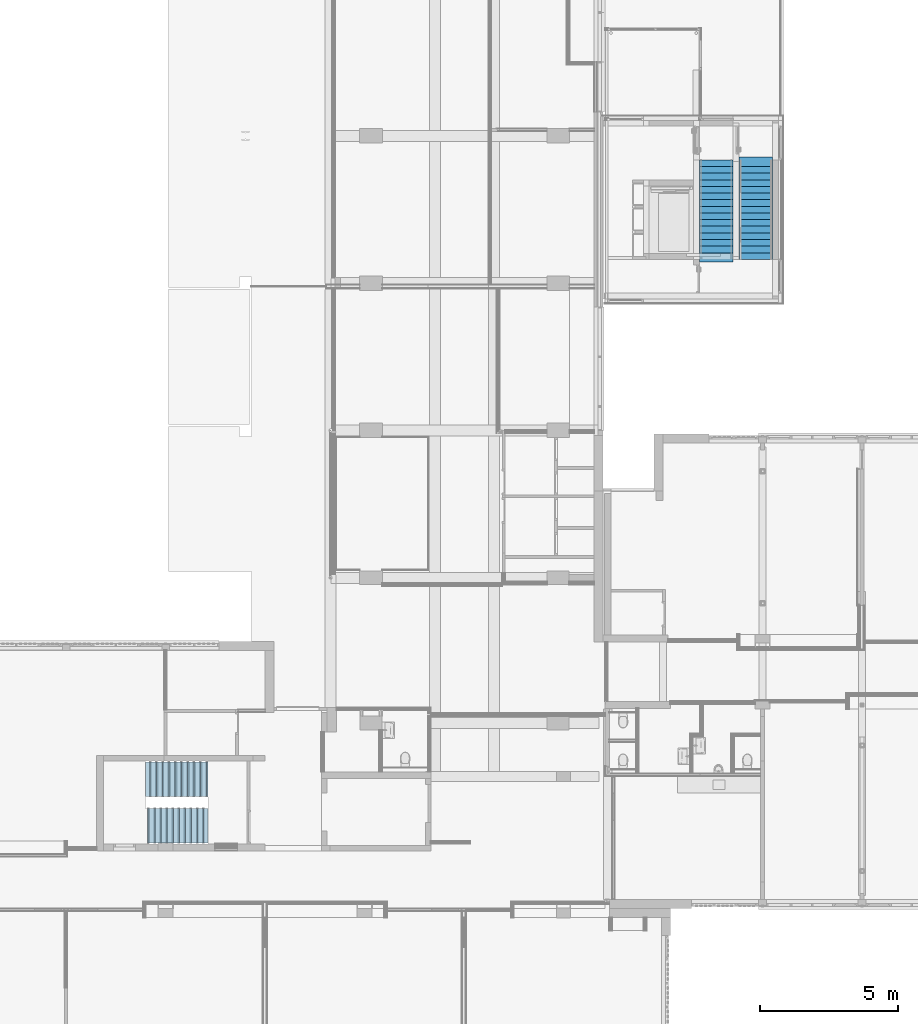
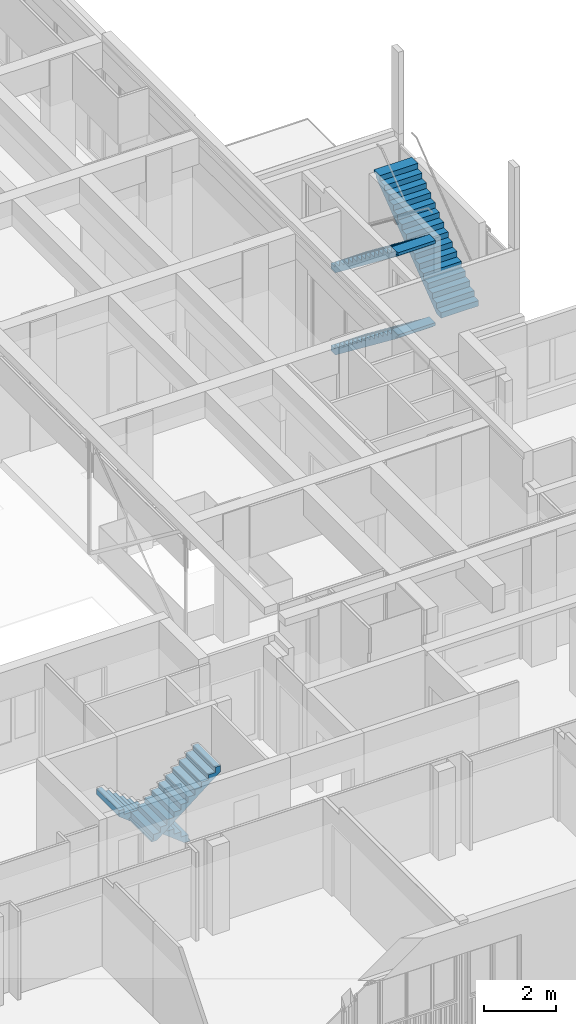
# One storey, part 71 of 117: 5 stair flights, 5 elements without a shape of their own.
"""IFC2X3 building model written with IfcOpenShell, lengths in millimetres."""

from ifc_helpers import new_model, entity, si_unit, converted_unit, derived_unit, money_unit, direction, frame, origin_with_axes, place, context, subcontext, project, spatial, faceted_brep, material, type_object, element, aggregate, save


model = new_model("IFC2X3")

# Units and contexts
model_context = context("Model", 3, precision=0.01, world=origin_with_axes(), true_north=direction((0.0, 1.0)))
body_context = subcontext(model_context, "Body", "Model", "MODEL_VIEW")
ifc_project = project(units=[si_unit("LENGTHUNIT", "METRE", prefix="MILLI"), si_unit("AREAUNIT", "SQUARE_METRE"), si_unit("VOLUMEUNIT", "CUBIC_METRE"), converted_unit("PLANEANGLEUNIT", "DEGREE", entity("IfcPlaneAngleMeasure", 0.0174532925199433), si_unit("PLANEANGLEUNIT", "RADIAN"), dimensions=[0, 0, 0, 0, 0, 0, 0]), money_unit("EUR"), converted_unit("TIMEUNIT", "Year", entity("IfcTimeMeasure", 31557600.0), si_unit("TIMEUNIT", "SECOND"), dimensions=[0, 0, 1, 0, 0, 0, 0]), si_unit("MASSUNIT", "GRAM", prefix="KILO"), si_unit("THERMODYNAMICTEMPERATUREUNIT", "DEGREE_CELSIUS"), si_unit("LUMINOUSINTENSITYUNIT", "LUMEN"), si_unit("ENERGYUNIT", "JOULE", prefix="MEGA"), derived_unit("THERMALCONDUCTANCEUNIT", [(si_unit("POWERUNIT", "WATT"), 1), (si_unit("LENGTHUNIT", "METRE"), -1), (si_unit("THERMODYNAMICTEMPERATUREUNIT", "KELVIN"), -1)]), derived_unit("SPECIFICHEATCAPACITYUNIT", [(si_unit("ENERGYUNIT", "JOULE"), 1), (si_unit("MASSUNIT", "GRAM", prefix="KILO"), -1), (si_unit("THERMODYNAMICTEMPERATUREUNIT", "KELVIN"), -1)]), derived_unit("MASSDENSITYUNIT", [(si_unit("MASSUNIT", "GRAM", prefix="KILO"), 1), (si_unit("VOLUMEUNIT", "CUBIC_METRE"), -1)])], contexts=[model_context])

# Site, building, storey
site_placement = place(None, origin_with_axes())
site = spatial("IfcSite", under=ifc_project, at=site_placement, Name="Site", CompositionType="ELEMENT")
building_placement = place(site_placement, origin_with_axes())
building = spatial("IfcBuilding", under=site, at=building_placement, Name="Naam gebouw", CompositionType="ELEMENT")
storey_placement = place(building_placement, frame((0.0, 0.0, 4150.0), z_axis=(0.0, 0.0, 1.0), x_axis=(1.0, 0.0, 0.0)))
storey = spatial("IfcBuildingStorey", under=building, at=storey_placement, Name="1e verdieping N", CompositionType="ELEMENT", Elevation=4150.0)

# Stair, stair flight
stair_1_placement = place(storey_placement, frame((15940.50051848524, 14714.92025998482, 0.0), z_axis=(0.0, 0.0, 1.0), x_axis=(1.0, 0.0, 0.0)))
stair_1 = element("IfcStair", 1, at=stair_1_placement, inside=storey, Name="_Trap-x", ShapeType="NOTDEFINED")
ifc_material_1 = material(Name="Beton C")
stair_flight_type_1 = type_object("IfcStairFlightType", Name="IfcStairFlight", PredefinedType="NOTDEFINED")
stair_flight_1_placement = place(stair_1_placement, origin_with_axes())
stair_flight_1 = element("IfcStairFlight", 2, at=stair_flight_1_placement, type_object=stair_flight_type_1, material=ifc_material_1, Name="_Trapsegment-x", context=body_context, shape_type="Brep", body=[
    faceted_brep([(0.0, 0.0, -99.99999999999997), (0.0, 1240.0, -99.99999999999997), (0.0, 1240.0, -38.00000000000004), (0.0, 0.0, -38.00000000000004), (-174.2201308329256, 1240.0, -99.99999999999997), (-174.2201308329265, 0.0, -99.99999999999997), (-2118.666666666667, 1240.000000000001, 1399.02265978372), (-2194.333333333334, 1240.000000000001, 1457.355993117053), (-2270.000000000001, 1240.000000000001, 1515.689326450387), (-2270.000000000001, 1240.000000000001, 1712.0), (-2101.100000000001, 1240.000000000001, 1712.0), (-2101.100000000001, 1240.000000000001, 1537.0), (-1874.1, 1240.000000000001, 1537.0), (-1874.1, 1240.000000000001, 1362.0), (-1647.100000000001, 1240.000000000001, 1362.0), (-1647.100000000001, 1240.000000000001, 1187.0), (-1420.1, 1240.000000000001, 1187.0), (-1420.1, 1240.000000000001, 1012.0), (-1193.100000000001, 1240.000000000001, 1012.0), (-1193.100000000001, 1240.000000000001, 837.0), (-966.1, 1240.000000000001, 837.0), (-966.1, 1240.000000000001, 661.9999999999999), (-739.0999999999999, 1240.0, 661.9999999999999), (-739.0999999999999, 1240.0, 486.9999999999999), (-512.0999999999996, 1240.0, 486.9999999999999), (-512.0999999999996, 1240.0, 312.0000000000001), (-285.0999999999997, 1240.0, 312.0000000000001), (-285.0999999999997, 1240.0, 137.0), (-58.09999999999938, 1240.0, 137.0), (-58.09999999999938, 1240.0, -38.00000000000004), (-226.9999999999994, 1240.0, -59.31067354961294), (-302.6666666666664, 1240.000000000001, -0.9773402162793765), (-378.333333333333, 1240.000000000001, 57.35599311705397), (-453.9999999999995, 1240.000000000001, 115.6893264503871), (-529.6666666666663, 1240.000000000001, 174.0226597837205), (-605.3333333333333, 1240.000000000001, 232.355993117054), (-681.0, 1240.000000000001, 290.6893264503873), (-756.6666666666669, 1240.000000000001, 349.0226597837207), (-832.3333333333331, 1240.000000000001, 407.3559931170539), (-908.0000000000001, 1240.000000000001, 465.6893264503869), (-983.6666666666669, 1240.000000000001, 524.0226597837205), (-1059.333333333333, 1240.000000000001, 582.3559931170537), (-1135.0, 1240.000000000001, 640.6893264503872), (-1210.666666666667, 1240.000000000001, 699.0226597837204), (-1286.333333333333, 1240.000000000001, 757.3559931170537), (-1362.0, 1240.000000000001, 815.689326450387), (-1437.666666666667, 1240.000000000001, 874.0226597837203), (-1513.333333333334, 1240.000000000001, 932.3559931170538), (-1589.000000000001, 1240.000000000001, 990.689326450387), (-1664.666666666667, 1240.000000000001, 1049.02265978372), (-1740.333333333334, 1240.000000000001, 1107.355993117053), (-1816.000000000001, 1240.000000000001, 1165.689326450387), (-1891.666666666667, 1240.000000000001, 1224.02265978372), (-1967.333333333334, 1240.000000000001, 1282.355993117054), (-2043.000000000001, 1240.000000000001, 1340.689326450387), (-58.10000000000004, 0.0, -38.00000000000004), (-58.10000000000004, 0.0, 137.0), (-285.1000000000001, 0.0, 137.0), (-285.1000000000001, 0.0, 312.0000000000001), (-512.1000000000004, 0.0, 312.0000000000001), (-512.1000000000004, 0.0, 486.9999999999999), (-739.1000000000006, 0.0, 486.9999999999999), (-739.1000000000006, 0.0, 661.9999999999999), (-966.1000000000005, 0.0, 661.9999999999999), (-966.1000000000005, 0.0, 837.0), (-1193.100000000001, 0.0, 837.0), (-1193.100000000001, 0.0, 1012.0), (-1420.100000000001, 0.0, 1012.0), (-1420.100000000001, 0.0, 1187.0), (-1647.100000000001, 0.0, 1187.0), (-1647.100000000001, 0.0, 1362.0), (-1874.100000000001, 0.0, 1362.0), (-1874.100000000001, 0.0, 1537.0), (-2101.100000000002, 0.0, 1537.0), (-2101.100000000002, 0.0, 1712.0), (-2270.000000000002, 0.0, 1712.0), (-2270.000000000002, 0.0, 1515.689326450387), (-2194.333333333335, 0.0, 1457.355993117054), (-2118.666666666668, 0.0, 1399.022659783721), (-2043.000000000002, 0.0, 1340.689326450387), (-1967.333333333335, 0.0, 1282.355993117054), (-1891.666666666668, 0.0, 1224.02265978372), (-1816.000000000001, 0.0, 1165.689326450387), (-1740.333333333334, 0.0, 1107.355993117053), (-1664.666666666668, 0.0, 1049.02265978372), (-1589.000000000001, 0.0, 990.6893264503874), (-1513.333333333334, 0.0, 932.3559931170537), (-1437.666666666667, 0.0, 874.0226597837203), (-1362.000000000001, 0.0, 815.6893264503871), (-1286.333333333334, 0.0, 757.3559931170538), (-1210.666666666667, 0.0, 699.0226597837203), (-1135.000000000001, 0.0, 640.6893264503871), (-1059.333333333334, 0.0, 582.3559931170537), (-983.6666666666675, 0.0, 524.0226597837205), (-908.0000000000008, 0.0, 465.6893264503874), (-832.3333333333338, 0.0, 407.3559931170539), (-756.6666666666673, 0.0, 349.0226597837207), (-681.0000000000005, 0.0, 290.6893264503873), (-605.3333333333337, 0.0, 232.3559931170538), (-529.666666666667, 0.0, 174.0226597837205), (-454.0000000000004, 0.0, 115.6893264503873), (-378.3333333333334, 0.0, 57.35599311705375), (-302.6666666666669, 0.0, -0.9773402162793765), (-227.0000000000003, 0.0, -59.31067354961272)], [[[0, 1, 2, 3]], [[4, 1, 0, 5]], [[6, 7, 8, 9, 10, 11, 12, 13, 14, 15, 16, 17, 18, 19, 20, 21, 22, 23, 24, 25, 26, 27, 28, 29, 2, 1, 4, 30, 31, 32, 33, 34, 35, 36, 37, 38, 39, 40, 41, 42, 43, 44, 45, 46, 47, 48, 49, 50, 51, 52, 53, 54]], [[29, 55, 3, 2]], [[5, 0, 3, 55, 56, 57, 58, 59, 60, 61, 62, 63, 64, 65, 66, 67, 68, 69, 70, 71, 72, 73, 74, 75, 76, 77, 78, 79, 80, 81, 82, 83, 84, 85, 86, 87, 88, 89, 90, 91, 92, 93, 94, 95, 96, 97, 98, 99, 100, 101, 102, 103]], [[103, 30, 4, 5]], [[77, 7, 6, 78]], [[76, 8, 7, 77]], [[9, 8, 76, 75]], [[9, 75, 74, 10]], [[74, 73, 11, 10]], [[73, 72, 12, 11]], [[72, 71, 13, 12]], [[71, 70, 14, 13]], [[70, 69, 15, 14]], [[69, 68, 16, 15]], [[68, 67, 17, 16]], [[67, 66, 18, 17]], [[66, 65, 19, 18]], [[65, 64, 20, 19]], [[64, 63, 21, 20]], [[63, 62, 22, 21]], [[62, 61, 23, 22]], [[61, 60, 24, 23]], [[60, 59, 25, 24]], [[59, 58, 26, 25]], [[58, 57, 27, 26]], [[57, 56, 28, 27]], [[56, 55, 29, 28]], [[102, 31, 30, 103]], [[101, 32, 31, 102]], [[100, 33, 32, 101]], [[99, 34, 33, 100]], [[98, 35, 34, 99]], [[97, 36, 35, 98]], [[96, 37, 36, 97]], [[95, 38, 37, 96]], [[94, 39, 38, 95]], [[93, 40, 39, 94]], [[92, 41, 40, 93]], [[91, 42, 41, 92]], [[90, 43, 42, 91]], [[89, 44, 43, 90]], [[88, 45, 44, 89]], [[87, 46, 45, 88]], [[86, 47, 46, 87]], [[85, 48, 47, 86]], [[84, 49, 48, 85]], [[83, 50, 49, 84]], [[82, 51, 50, 83]], [[81, 52, 51, 82]], [[80, 53, 52, 81]], [[79, 54, 53, 80]], [[78, 6, 54, 79]]]),
])
aggregate(stair_1, [stair_flight_1])

stair_2_placement = place(storey_placement, frame((13740.50051848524, 14274.60803964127, 1750.0), z_axis=(0.0, 0.0, 1.0), x_axis=(-1.0, 0.0, 0.0)))
stair_2 = element("IfcStair", 3, at=stair_2_placement, inside=storey, Name="_Trap-x", ShapeType="NOTDEFINED")
stair_flight_2_placement = place(stair_2_placement, origin_with_axes())
stair_flight_2 = element("IfcStairFlight", 4, at=stair_flight_2_placement, type_object=stair_flight_type_1, material=ifc_material_1, Name="_Trapsegment-x", context=body_context, shape_type="Brep", body=[
    faceted_brep([(0.0, 0.0, -99.99999999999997), (0.0, 1240.0, -99.99999999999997), (0.0, 1240.0, -38.00000000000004), (0.0, 0.0, -38.00000000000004), (-172.920929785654, 1240.0, -99.99999999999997), (-172.9209297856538, 0.0, -99.99999999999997), (-2053.333333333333, 1240.0, 1395.782593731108), (-2126.666666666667, 1240.0, 1454.115927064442), (-2200.0, 1240.0, 1512.449260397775), (-2200.0, 1240.0, 1712.0), (-2038.1, 1240.0, 1712.0), (-2038.1, 1240.0, 1537.0), (-1818.1, 1240.0, 1537.0), (-1818.1, 1240.0, 1362.0), (-1598.1, 1240.0, 1362.0), (-1598.1, 1240.0, 1187.0), (-1378.1, 1240.0, 1187.0), (-1378.1, 1240.0, 1012.0), (-1158.1, 1240.0, 1012.0), (-1158.1, 1240.0, 837.0), (-938.1, 1240.0, 837.0), (-938.1, 1240.0, 661.9999999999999), (-718.1, 1240.0, 661.9999999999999), (-718.1, 1240.0, 486.9999999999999), (-498.1000000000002, 1240.0, 486.9999999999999), (-498.1000000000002, 1240.0, 312.0000000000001), (-278.1000000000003, 1240.0, 312.0000000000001), (-278.1000000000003, 1240.0, 137.0), (-58.10000000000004, 1240.0, 137.0), (-58.10000000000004, 1240.0, -38.00000000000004), (-220.0000000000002, 1240.0, -62.55073960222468), (-293.3333333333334, 1240.0, -4.217406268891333), (-366.6666666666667, 1240.0, 54.11592706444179), (-440.0000000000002, 1240.0, 112.4492603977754), (-513.3333333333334, 1240.0, 170.7825937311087), (-586.6666666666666, 1240.0, 229.1159270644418), (-660.0000000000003, 1240.0, 287.4492603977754), (-733.3333333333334, 1240.0, 345.7825937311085), (-806.6666666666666, 1240.0, 404.1159270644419), (-879.9999999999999, 1240.0, 462.4492603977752), (-953.3333333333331, 1240.0, 520.7825937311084), (-1026.666666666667, 1240.0, 579.115927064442), (-1100.0, 1240.0, 637.4492603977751), (-1173.333333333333, 1240.0, 695.7825937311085), (-1246.666666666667, 1240.0, 754.1159270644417), (-1320.0, 1240.0, 812.449260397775), (-1393.333333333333, 1240.0, 870.7825937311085), (-1466.666666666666, 1240.0, 929.1159270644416), (-1540.0, 1240.0, 987.449260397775), (-1613.333333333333, 1240.0, 1045.782593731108), (-1686.666666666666, 1240.0, 1104.115927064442), (-1760.0, 1240.0, 1162.449260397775), (-1833.333333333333, 1240.0, 1220.782593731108), (-1906.666666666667, 1240.0, 1279.115927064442), (-1980.0, 1240.0, 1337.449260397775), (-58.10000000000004, 0.0, -38.00000000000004), (-58.10000000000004, 0.0, 137.0), (-278.1, 0.0, 137.0), (-278.1, 0.0, 312.0000000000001), (-498.1, 0.0, 312.0000000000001), (-498.1, 0.0, 486.9999999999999), (-718.0999999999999, 0.0, 486.9999999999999), (-718.0999999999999, 0.0, 661.9999999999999), (-938.0999999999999, 0.0, 661.9999999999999), (-938.0999999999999, 0.0, 837.0), (-1158.1, 0.0, 837.0), (-1158.1, 0.0, 1012.0), (-1378.1, 0.0, 1012.0), (-1378.1, 0.0, 1187.0), (-1598.1, 0.0, 1187.0), (-1598.1, 0.0, 1362.0), (-1818.1, 0.0, 1362.0), (-1818.1, 0.0, 1537.0), (-2038.1, 0.0, 1537.0), (-2038.1, 0.0, 1712.0), (-2200.0, 0.0, 1712.0), (-2200.0, 0.0, 1512.449260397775), (-2126.666666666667, 0.0, 1454.115927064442), (-2053.333333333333, 0.0, 1395.782593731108), (-1980.0, 0.0, 1337.449260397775), (-1906.666666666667, 0.0, 1279.115927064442), (-1833.333333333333, 0.0, 1220.782593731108), (-1760.0, 0.0, 1162.449260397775), (-1686.666666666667, 0.0, 1104.115927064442), (-1613.333333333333, 0.0, 1045.782593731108), (-1540.0, 0.0, 987.449260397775), (-1466.666666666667, 0.0, 929.1159270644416), (-1393.333333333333, 0.0, 870.7825937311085), (-1320.0, 0.0, 812.449260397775), (-1246.666666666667, 0.0, 754.1159270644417), (-1173.333333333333, 0.0, 695.7825937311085), (-1100.0, 0.0, 637.4492603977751), (-1026.666666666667, 0.0, 579.115927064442), (-953.3333333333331, 0.0, 520.7825937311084), (-879.9999999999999, 0.0, 462.4492603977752), (-806.6666666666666, 0.0, 404.1159270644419), (-733.3333333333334, 0.0, 345.7825937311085), (-659.9999999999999, 0.0, 287.4492603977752), (-586.6666666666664, 0.0, 229.1159270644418), (-513.3333333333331, 0.0, 170.7825937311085), (-439.9999999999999, 0.0, 112.4492603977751), (-366.6666666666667, 0.0, 54.11592706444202), (-293.3333333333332, 0.0, -4.217406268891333), (-220.0, 0.0, -62.55073960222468)], [[[0, 1, 2, 3]], [[4, 1, 0, 5]], [[6, 7, 8, 9, 10, 11, 12, 13, 14, 15, 16, 17, 18, 19, 20, 21, 22, 23, 24, 25, 26, 27, 28, 29, 2, 1, 4, 30, 31, 32, 33, 34, 35, 36, 37, 38, 39, 40, 41, 42, 43, 44, 45, 46, 47, 48, 49, 50, 51, 52, 53, 54]], [[29, 55, 3, 2]], [[5, 0, 3, 55, 56, 57, 58, 59, 60, 61, 62, 63, 64, 65, 66, 67, 68, 69, 70, 71, 72, 73, 74, 75, 76, 77, 78, 79, 80, 81, 82, 83, 84, 85, 86, 87, 88, 89, 90, 91, 92, 93, 94, 95, 96, 97, 98, 99, 100, 101, 102, 103]], [[103, 30, 4, 5]], [[77, 7, 6, 78]], [[76, 8, 7, 77]], [[9, 8, 76, 75]], [[9, 75, 74, 10]], [[74, 73, 11, 10]], [[73, 72, 12, 11]], [[72, 71, 13, 12]], [[71, 70, 14, 13]], [[70, 69, 15, 14]], [[69, 68, 16, 15]], [[68, 67, 17, 16]], [[67, 66, 18, 17]], [[66, 65, 19, 18]], [[65, 64, 20, 19]], [[64, 63, 21, 20]], [[63, 62, 22, 21]], [[62, 61, 23, 22]], [[61, 60, 24, 23]], [[60, 59, 25, 24]], [[59, 58, 26, 25]], [[58, 57, 27, 26]], [[57, 56, 28, 27]], [[56, 55, 29, 28]], [[102, 31, 30, 103]], [[101, 32, 31, 102]], [[100, 33, 32, 101]], [[99, 34, 33, 100]], [[98, 35, 34, 99]], [[97, 36, 35, 98]], [[96, 37, 36, 97]], [[95, 38, 37, 96]], [[94, 39, 38, 95]], [[93, 40, 39, 94]], [[92, 41, 40, 93]], [[91, 42, 41, 92]], [[90, 43, 42, 91]], [[89, 44, 43, 90]], [[88, 45, 44, 89]], [[87, 46, 45, 88]], [[86, 47, 46, 87]], [[85, 48, 47, 86]], [[84, 49, 48, 85]], [[83, 50, 49, 84]], [[82, 51, 50, 83]], [[81, 52, 51, 82]], [[80, 53, 52, 81]], [[79, 54, 53, 80]], [[78, 6, 54, 79]]]),
])
aggregate(stair_2, [stair_flight_2])

stair_3_placement = place(storey_placement, frame((0.0, 0.0, -4150.0), z_axis=(0.0, 0.0, 1.0), x_axis=(1.0, 0.0, 0.0)))
stair_3 = element("IfcStair", 5, at=stair_3_placement, inside=storey, Name="Precast Stair:Stair", ObjectType="Precast Stair:24_trap - prefab", ShapeType="NOTDEFINED")
ifc_material_2 = material(Name="beton")
stair_flight_type_2 = type_object("IfcStairFlightType", Name="Monolithic Run:prefab trap", PredefinedType="STRAIGHT")
stair_flight_3_placement = place(stair_3_placement, frame((34923.00000006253, 34045.91242631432, 0.0), z_axis=(0.0, 0.0, 1.0), x_axis=(0.0, 1.0, 0.0)))
stair_flight_3 = element("IfcStairFlight", 6, at=stair_flight_3_placement, type_object=stair_flight_type_2, material=ifc_material_2, Name="Precast Stair:Stair:2462839 Run 1", RiserHeight=0.605862, TreadLength=0.787402, context=body_context, shape_type="Brep", body=[
    faceted_brep([(3460.0, 0.0, 564.66666666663), (3700.0, 0.0, 564.66666666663), (3700.0, 1200.0, 564.66666666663), (3460.0, 1200.0, 564.66666666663), (3460.0, 0.0, 380.0000000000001), (3700.0, 0.0, 380.0000000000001), (3700.0, 1200.0, 380.0000000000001), (3460.0, 1200.0, 380.0000000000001), (3460.0, 1200.0, 749.3333333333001), (3460.0, 0.0, 749.3333333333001), (3220.0, 0.0, 749.3333333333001), (3220.0, 0.0, 560.06894961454), (3454.02462765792, 0.0, 380.0000000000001), (3454.02462765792, 1200.0, 380.0000000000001), (3220.0, 1200.0, 560.06894961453), (3220.0, 1200.0, 749.3333333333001), (3220.0, 0.0, 934.0), (2980.0, 0.0, 934.0), (2980.0, 0.0, 744.7356162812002), (2740.0, 0.0, 929.4022829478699), (2500.0, 0.0, 1114.06894961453), (2260.0, 0.0, 1298.7356162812), (2020.0, 0.0, 1483.40228294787), (1780.0, 0.0, 1668.06894961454), (1540.0, 0.0, 1852.7356162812), (1300.0, 0.0, 2037.40228294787), (1060.0, 0.0, 2222.06894961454), (820.0000000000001, 0.0, 2406.7356162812), (580.0, 0.0, 2591.40228294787), (340.0, 0.0, 2776.06894961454), (100.0, 0.0, 2960.7356162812), (100.0, 1200.0, 2960.7356162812), (340.0, 1200.0, 2776.06894961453), (580.0, 1200.0, 2591.40228294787), (820.0000000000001, 1200.0, 2406.7356162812), (1060.0, 1200.0, 2222.06894961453), (1300.0, 1200.0, 2037.40228294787), (1540.0, 1200.0, 1852.7356162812), (1780.0, 1200.0, 1668.06894961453), (2020.0, 1200.0, 1483.40228294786), (2260.0, 1200.0, 1298.7356162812), (2500.0, 1200.0, 1114.06894961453), (2740.0, 1200.0, 929.4022829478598), (2980.0, 1200.0, 744.7356162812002), (2980.0, 1200.0, 934.0), (3220.0, 1200.0, 934.0), (2980.0, 0.0, 1118.66666666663), (2740.0, 0.0, 1118.66666666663), (2740.0, 0.0, 1303.3333333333), (2500.0, 0.0, 1303.3333333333), (2500.0, 0.0, 1488.0), (2260.0, 0.0, 1488.0), (2260.0, 0.0, 1672.66666666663), (2020.0, 0.0, 1672.66666666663), (2020.0, 0.0, 1857.3333333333), (1780.0, 0.0, 1857.3333333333), (1780.0, 0.0, 2042.0), (1540.0, 0.0, 2042.0), (1540.0, 0.0, 2226.66666666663), (1300.0, 0.0, 2226.66666666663), (1300.0, 0.0, 2411.3333333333), (1060.0, 0.0, 2411.3333333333), (1060.0, 0.0, 2596.0), (820.0000000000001, 0.0, 2596.0), (820.0000000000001, 0.0, 2780.66666666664), (580.0, 0.0, 2780.66666666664), (580.0, 0.0, 2965.3333333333), (340.0, 0.0, 2965.3333333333), (340.0, 0.0, 3150.0), (0.0, 0.0, 3150.0), (0.0, 0.0, 3050.0), (100.0, 0.0, 3050.0), (100.0, 1200.0, 3050.0), (0.0, 1200.0, 3150.0), (340.0, 1200.0, 3150.0), (340.0, 1200.0, 2965.3333333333), (0.0, 1200.0, 3050.0), (580.0, 1200.0, 2965.3333333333), (580.0, 1200.0, 2780.66666666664), (820.0000000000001, 1200.0, 2780.66666666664), (820.0000000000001, 1200.0, 2596.0), (1060.0, 1200.0, 2596.0), (1060.0, 1200.0, 2411.3333333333), (1300.0, 1200.0, 2411.3333333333), (1300.0, 1200.0, 2226.66666666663), (1540.0, 1200.0, 2226.66666666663), (1540.0, 1200.0, 2042.0), (1780.0, 1200.0, 2042.0), (1780.0, 1200.0, 1857.3333333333), (2020.0, 1200.0, 1857.3333333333), (2020.0, 1200.0, 1672.66666666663), (2260.0, 1200.0, 1672.66666666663), (2260.0, 1200.0, 1488.0), (2500.0, 1200.0, 1488.0), (2500.0, 1200.0, 1303.3333333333), (2740.0, 1200.0, 1303.3333333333), (2740.0, 1200.0, 1118.66666666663), (2980.0, 1200.0, 1118.66666666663)], [[[0, 1, 2, 3]], [[1, 0, 4, 5]], [[2, 1, 5, 6]], [[3, 2, 6, 7]], [[0, 3, 8, 9]], [[4, 0, 9, 10, 11, 12]], [[5, 4, 12, 13, 7, 6]], [[3, 7, 13, 14, 15, 8]], [[10, 9, 8, 15]], [[16, 17, 18, 11, 10]], [[13, 12, 11, 18, 19, 20, 21, 22, 23, 24, 25, 26, 27, 28, 29, 30, 31, 32, 33, 34, 35, 36, 37, 38, 39, 40, 41, 42, 43, 14]], [[44, 45, 15, 14, 43]], [[10, 15, 45, 16]], [[17, 16, 45, 44]], [[46, 47, 19, 18, 17]], [[48, 49, 20, 19, 47]], [[50, 51, 21, 20, 49]], [[52, 53, 22, 21, 51]], [[54, 55, 23, 22, 53]], [[56, 57, 24, 23, 55]], [[58, 59, 25, 24, 57]], [[60, 61, 26, 25, 59]], [[62, 63, 27, 26, 61]], [[64, 65, 28, 27, 63]], [[66, 67, 29, 28, 65]], [[68, 69, 70, 71, 30, 29, 67]], [[31, 30, 71, 72]], [[73, 74, 75, 32, 31, 72, 76]], [[75, 77, 78, 33, 32]], [[78, 79, 80, 34, 33]], [[80, 81, 82, 35, 34]], [[82, 83, 84, 36, 35]], [[84, 85, 86, 37, 36]], [[86, 87, 88, 38, 37]], [[88, 89, 90, 39, 38]], [[90, 91, 92, 40, 39]], [[92, 93, 94, 41, 40]], [[94, 95, 96, 42, 41]], [[96, 97, 44, 43, 42]], [[17, 44, 97, 46]], [[47, 46, 97, 96]], [[49, 48, 95, 94]], [[47, 96, 95, 48]], [[51, 50, 93, 92]], [[49, 94, 93, 50]], [[53, 52, 91, 90]], [[51, 92, 91, 52]], [[55, 54, 89, 88]], [[53, 90, 89, 54]], [[57, 56, 87, 86]], [[55, 88, 87, 56]], [[59, 58, 85, 84]], [[57, 86, 85, 58]], [[61, 60, 83, 82]], [[59, 84, 83, 60]], [[63, 62, 81, 80]], [[61, 82, 81, 62]], [[65, 64, 79, 78]], [[63, 80, 79, 64]], [[67, 66, 77, 75]], [[65, 78, 77, 66]], [[68, 74, 73, 69]], [[76, 70, 69, 73]], [[76, 72, 71, 70]], [[67, 75, 74, 68]]]),
])
aggregate(stair_3, [stair_flight_3])

stair_4_placement = place(storey_placement, frame((0.0, 0.0, -4150.0), z_axis=(0.0, 0.0, 1.0), x_axis=(1.0, 0.0, 0.0)))
stair_4 = element("IfcStair", 7, at=stair_4_placement, inside=storey, Name="Precast Stair:Stair", ObjectType="Precast Stair:24_trap - prefab", ShapeType="NOTDEFINED")
stair_flight_4_placement = place(stair_4_placement, frame((34923.00000006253, 34045.91242631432, 0.0), z_axis=(0.0, 0.0, 1.0), x_axis=(0.0, 1.0, 0.0)))
stair_flight_4 = element("IfcStairFlight", 8, at=stair_flight_4_placement, type_object=stair_flight_type_2, material=ifc_material_2, Name="Precast Stair:Stair:2462867 Run 1", RiserHeight=0.605862, TreadLength=0.787402, context=body_context, shape_type="Brep", body=[
    faceted_brep([(3460.0, 0.0, 3334.66666666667), (3700.0, 0.0, 3334.66666666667), (3700.0, 1200.0, 3334.66666666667), (3460.0, 1200.0, 3334.66666666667), (3460.0, 0.0, 3150.0), (3700.0, 0.0, 3150.0), (3700.0, 1200.0, 3150.0), (3460.0, 1200.0, 3150.0), (3460.0, 1200.0, 3519.33333333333), (3460.0, 0.0, 3519.33333333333), (3220.0, 0.0, 3519.33333333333), (3220.0, 0.0, 3330.06894961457), (3454.02462765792, 0.0, 3150.0), (3454.02462765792, 1200.0, 3150.0), (3220.0, 1200.0, 3330.06894961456), (3220.0, 1200.0, 3519.33333333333), (3220.0, 0.0, 3704.0), (2980.0, 0.0, 3704.0), (2980.0, 0.0, 3514.73561628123), (2740.0, 0.0, 3699.4022829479), (2500.0, 0.0, 3884.06894961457), (2260.0, 0.0, 4068.73561628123), (2020.0, 0.0, 4253.4022829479), (1780.0, 0.0, 4438.068949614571), (1540.0, 0.0, 4622.73561628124), (1300.0, 0.0, 4807.4022829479), (1060.0, 0.0, 4992.06894961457), (820.0000000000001, 0.0, 5176.73561628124), (580.0, 0.0, 5361.4022829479), (340.0, 0.0, 5546.06894961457), (100.0, 0.0, 5730.73561628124), (100.0, 1200.0, 5730.735616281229), (340.0, 1200.0, 5546.06894961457), (580.0, 1200.0, 5361.4022829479), (820.0000000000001, 1200.0, 5176.73561628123), (1060.0, 1200.0, 4992.06894961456), (1300.0, 1200.0, 4807.4022829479), (1540.0, 1200.0, 4622.73561628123), (1780.0, 1200.0, 4438.068949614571), (2020.0, 1200.0, 4253.4022829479), (2260.0, 1200.0, 4068.73561628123), (2500.0, 1200.0, 3884.06894961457), (2740.0, 1200.0, 3699.4022829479), (2980.0, 1200.0, 3514.73561628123), (2980.0, 1200.0, 3704.0), (3220.0, 1200.0, 3704.0), (2980.0, 0.0, 3888.66666666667), (2740.0, 0.0, 3888.66666666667), (2740.0, 0.0, 4073.33333333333), (2500.0, 0.0, 4073.33333333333), (2500.0, 0.0, 4258.0), (2260.0, 0.0, 4258.0), (2260.0, 0.0, 4442.666666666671), (2020.0, 0.0, 4442.666666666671), (2020.0, 0.0, 4627.33333333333), (1780.0, 0.0, 4627.33333333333), (1780.0, 0.0, 4812.0), (1540.0, 0.0, 4812.0), (1540.0, 0.0, 4996.66666666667), (1300.0, 0.0, 4996.66666666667), (1300.0, 0.0, 5181.33333333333), (1060.0, 0.0, 5181.33333333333), (1060.0, 0.0, 5366.0), (820.0000000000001, 0.0, 5366.0), (820.0000000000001, 0.0, 5550.66666666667), (580.0, 0.0, 5550.66666666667), (580.0, 0.0, 5735.333333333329), (340.0, 0.0, 5735.333333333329), (340.0, 0.0, 5920.0), (0.0, 0.0, 5920.0), (0.0, 0.0, 5820.0), (100.0, 0.0, 5820.0), (100.0, 1200.0, 5820.0), (0.0, 1200.0, 5920.0), (340.0, 1200.0, 5920.0), (340.0, 1200.0, 5735.333333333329), (0.0, 1200.0, 5820.0), (580.0, 1200.0, 5735.333333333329), (580.0, 1200.0, 5550.66666666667), (820.0000000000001, 1200.0, 5550.66666666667), (820.0000000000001, 1200.0, 5366.0), (1060.0, 1200.0, 5366.0), (1060.0, 1200.0, 5181.33333333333), (1300.0, 1200.0, 5181.33333333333), (1300.0, 1200.0, 4996.66666666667), (1540.0, 1200.0, 4996.66666666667), (1540.0, 1200.0, 4812.0), (1780.0, 1200.0, 4812.0), (1780.0, 1200.0, 4627.33333333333), (2020.0, 1200.0, 4627.33333333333), (2020.0, 1200.0, 4442.666666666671), (2260.0, 1200.0, 4442.666666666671), (2260.0, 1200.0, 4258.0), (2500.0, 1200.0, 4258.0), (2500.0, 1200.0, 4073.33333333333), (2740.0, 1200.0, 4073.33333333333), (2740.0, 1200.0, 3888.66666666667), (2980.0, 1200.0, 3888.66666666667)], [[[0, 1, 2, 3]], [[1, 0, 4, 5]], [[2, 1, 5, 6]], [[3, 2, 6, 7]], [[0, 3, 8, 9]], [[4, 0, 9, 10, 11, 12]], [[5, 4, 12, 13, 7, 6]], [[3, 7, 13, 14, 15, 8]], [[10, 9, 8, 15]], [[16, 17, 18, 11, 10]], [[13, 12, 11, 18, 19, 20, 21, 22, 23, 24, 25, 26, 27, 28, 29, 30, 31, 32, 33, 34, 35, 36, 37, 38, 39, 40, 41, 42, 43, 14]], [[44, 45, 15, 14, 43]], [[10, 15, 45, 16]], [[17, 16, 45, 44]], [[46, 47, 19, 18, 17]], [[48, 49, 20, 19, 47]], [[50, 51, 21, 20, 49]], [[52, 53, 22, 21, 51]], [[54, 55, 23, 22, 53]], [[56, 57, 24, 23, 55]], [[58, 59, 25, 24, 57]], [[60, 61, 26, 25, 59]], [[62, 63, 27, 26, 61]], [[64, 65, 28, 27, 63]], [[66, 67, 29, 28, 65]], [[68, 69, 70, 71, 30, 29, 67]], [[31, 30, 71, 72]], [[73, 74, 75, 32, 31, 72, 76]], [[75, 77, 78, 33, 32]], [[78, 79, 80, 34, 33]], [[80, 81, 82, 35, 34]], [[82, 83, 84, 36, 35]], [[84, 85, 86, 37, 36]], [[86, 87, 88, 38, 37]], [[88, 89, 90, 39, 38]], [[90, 91, 92, 40, 39]], [[92, 93, 94, 41, 40]], [[94, 95, 96, 42, 41]], [[96, 97, 44, 43, 42]], [[17, 44, 97, 46]], [[47, 46, 97, 96]], [[49, 48, 95, 94]], [[47, 96, 95, 48]], [[51, 50, 93, 92]], [[49, 94, 93, 50]], [[53, 52, 91, 90]], [[51, 92, 91, 52]], [[55, 54, 89, 88]], [[53, 90, 89, 54]], [[57, 56, 87, 86]], [[55, 88, 87, 56]], [[59, 58, 85, 84]], [[57, 86, 85, 58]], [[61, 60, 83, 82]], [[59, 84, 83, 60]], [[63, 62, 81, 80]], [[61, 82, 81, 62]], [[65, 64, 79, 78]], [[63, 80, 79, 64]], [[67, 66, 77, 75]], [[65, 78, 77, 66]], [[68, 74, 73, 69]], [[76, 70, 69, 73]], [[76, 72, 71, 70]], [[67, 75, 74, 68]]]),
])
aggregate(stair_4, [stair_flight_4])

stair_5_placement = place(storey_placement, frame((0.0, 0.0, -4150.0), z_axis=(0.0, 0.0, 1.0), x_axis=(1.0, 0.0, 0.0)))
stair_5 = element("IfcStair", 9, at=stair_5_placement, inside=storey, Name="Precast Stair:Stair", ObjectType="Precast Stair:24_trap - prefab", ShapeType="NOTDEFINED")
stair_flight_5_placement = place(stair_5_placement, frame((36357.00000004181, 34145.91242629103, 0.0), z_axis=(0.0, 0.0, 1.0), x_axis=(0.0, 1.0, 0.0)))
stair_flight_5 = element("IfcStairFlight", 10, at=stair_flight_5_placement, type_object=stair_flight_type_2, material=ifc_material_2, Name="Precast Stair:Stair:2462854 Run 1", RiserHeight=0.605862, TreadLength=0.787402, context=body_context, shape_type="Brep", body=[
    faceted_brep([(240.0, 1200.0, 3334.66666666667), (0.0, 1200.0, 3334.66666666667), (0.0, 0.0, 3334.66666666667), (240.0, 0.0, 3334.66666666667), (240.0, 1200.0, 3150.0), (0.0, 1200.0, 3150.0), (0.0, 0.0, 3150.0), (240.0, 0.0, 3150.0), (240.0, 0.0, 3519.33333333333), (240.0, 1200.0, 3519.33333333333), (480.0000000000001, 1200.0, 3519.33333333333), (480.0000000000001, 1200.0, 3330.06894961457), (245.97537234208, 1200.0, 3150.0), (245.97537234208, 0.0, 3150.0), (480.0000000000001, 0.0, 3330.06894961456), (480.0000000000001, 0.0, 3519.33333333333), (480.0000000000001, 1200.0, 3704.0), (720.0000000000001, 1200.0, 3704.0), (720.0000000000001, 1200.0, 3514.73561628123), (960.0, 1200.0, 3699.4022829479), (1200.0, 1200.0, 3884.06894961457), (1440.0, 1200.0, 4068.73561628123), (1680.0, 1200.0, 4253.4022829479), (1920.0, 1200.0, 4438.068949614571), (2160.0, 1200.0, 4622.73561628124), (2400.0, 1200.0, 4807.4022829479), (2640.0, 1200.0, 4992.06894961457), (2880.0, 1200.0, 5176.73561628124), (3120.0, 1200.0, 5361.4022829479), (3360.0, 1200.0, 5546.06894961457), (3600.0, 1200.0, 5730.73561628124), (3600.0, 0.0, 5730.735616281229), (3360.0, 0.0, 5546.06894961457), (3120.0, 0.0, 5361.4022829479), (2880.0, 0.0, 5176.73561628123), (2640.0, 0.0, 4992.06894961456), (2400.0, 0.0, 4807.4022829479), (2160.0, 0.0, 4622.73561628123), (1920.0, 0.0, 4438.068949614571), (1680.0, 0.0, 4253.4022829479), (1440.0, 0.0, 4068.73561628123), (1200.0, 0.0, 3884.06894961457), (960.0, 0.0, 3699.4022829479), (720.0000000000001, 0.0, 3514.73561628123), (720.0000000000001, 0.0, 3704.0), (480.0000000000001, 0.0, 3704.0), (720.0000000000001, 1200.0, 3888.66666666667), (960.0, 1200.0, 3888.66666666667), (960.0, 1200.0, 4073.33333333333), (1200.0, 1200.0, 4073.33333333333), (1200.0, 1200.0, 4258.0), (1440.0, 1200.0, 4258.0), (1440.0, 1200.0, 4442.666666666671), (1680.0, 1200.0, 4442.666666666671), (1680.0, 1200.0, 4627.33333333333), (1920.0, 1200.0, 4627.33333333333), (1920.0, 1200.0, 4812.0), (2160.0, 1200.0, 4812.0), (2160.0, 1200.0, 4996.66666666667), (2400.0, 1200.0, 4996.66666666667), (2400.0, 1200.0, 5181.33333333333), (2640.0, 1200.0, 5181.33333333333), (2640.0, 1200.0, 5366.0), (2880.0, 1200.0, 5366.0), (2880.0, 1200.0, 5550.66666666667), (3120.0, 1200.0, 5550.66666666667), (3120.0, 1200.0, 5735.333333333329), (3360.0, 1200.0, 5735.333333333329), (3360.0, 1200.0, 5920.0), (3700.0, 1200.0, 5920.0), (3700.0, 1200.0, 5820.0), (3600.0, 1200.0, 5820.0), (3600.0, 0.0, 5820.0), (3700.0, 0.0, 5920.0), (3360.0, 0.0, 5920.0), (3360.0, 0.0, 5735.333333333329), (3700.0, 0.0, 5820.0), (3120.0, 0.0, 5735.333333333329), (3120.0, 0.0, 5550.66666666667), (2880.0, 0.0, 5550.66666666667), (2880.0, 0.0, 5366.0), (2640.0, 0.0, 5366.0), (2640.0, 0.0, 5181.33333333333), (2400.0, 0.0, 5181.33333333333), (2400.0, 0.0, 4996.66666666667), (2160.0, 0.0, 4996.66666666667), (2160.0, 0.0, 4812.0), (1920.0, 0.0, 4812.0), (1920.0, 0.0, 4627.33333333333), (1680.0, 0.0, 4627.33333333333), (1680.0, 0.0, 4442.666666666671), (1440.0, 0.0, 4442.666666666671), (1440.0, 0.0, 4258.0), (1200.0, 0.0, 4258.0), (1200.0, 0.0, 4073.33333333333), (960.0, 0.0, 4073.33333333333), (960.0, 0.0, 3888.66666666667), (720.0000000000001, 0.0, 3888.66666666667)], [[[0, 1, 2, 3]], [[1, 0, 4, 5]], [[2, 1, 5, 6]], [[3, 2, 6, 7]], [[0, 3, 8, 9]], [[4, 0, 9, 10, 11, 12]], [[5, 4, 12, 13, 7, 6]], [[3, 7, 13, 14, 15, 8]], [[10, 9, 8, 15]], [[16, 17, 18, 11, 10]], [[13, 12, 11, 18, 19, 20, 21, 22, 23, 24, 25, 26, 27, 28, 29, 30, 31, 32, 33, 34, 35, 36, 37, 38, 39, 40, 41, 42, 43, 14]], [[44, 45, 15, 14, 43]], [[10, 15, 45, 16]], [[17, 16, 45, 44]], [[46, 47, 19, 18, 17]], [[48, 49, 20, 19, 47]], [[50, 51, 21, 20, 49]], [[52, 53, 22, 21, 51]], [[54, 55, 23, 22, 53]], [[56, 57, 24, 23, 55]], [[58, 59, 25, 24, 57]], [[60, 61, 26, 25, 59]], [[62, 63, 27, 26, 61]], [[64, 65, 28, 27, 63]], [[66, 67, 29, 28, 65]], [[68, 69, 70, 71, 30, 29, 67]], [[31, 30, 71, 72]], [[73, 74, 75, 32, 31, 72, 76]], [[75, 77, 78, 33, 32]], [[78, 79, 80, 34, 33]], [[80, 81, 82, 35, 34]], [[82, 83, 84, 36, 35]], [[84, 85, 86, 37, 36]], [[86, 87, 88, 38, 37]], [[88, 89, 90, 39, 38]], [[90, 91, 92, 40, 39]], [[92, 93, 94, 41, 40]], [[94, 95, 96, 42, 41]], [[96, 97, 44, 43, 42]], [[17, 44, 97, 46]], [[47, 46, 97, 96]], [[49, 48, 95, 94]], [[47, 96, 95, 48]], [[51, 50, 93, 92]], [[49, 94, 93, 50]], [[53, 52, 91, 90]], [[51, 92, 91, 52]], [[55, 54, 89, 88]], [[53, 90, 89, 54]], [[57, 56, 87, 86]], [[55, 88, 87, 56]], [[59, 58, 85, 84]], [[57, 86, 85, 58]], [[61, 60, 83, 82]], [[59, 84, 83, 60]], [[63, 62, 81, 80]], [[61, 82, 81, 62]], [[65, 64, 79, 78]], [[63, 80, 79, 64]], [[67, 66, 77, 75]], [[65, 78, 77, 66]], [[68, 74, 73, 69]], [[76, 70, 69, 73]], [[76, 72, 71, 70]], [[67, 75, 74, 68]]]),
])
aggregate(stair_5, [stair_flight_5])

save(model, "model.ifc")
